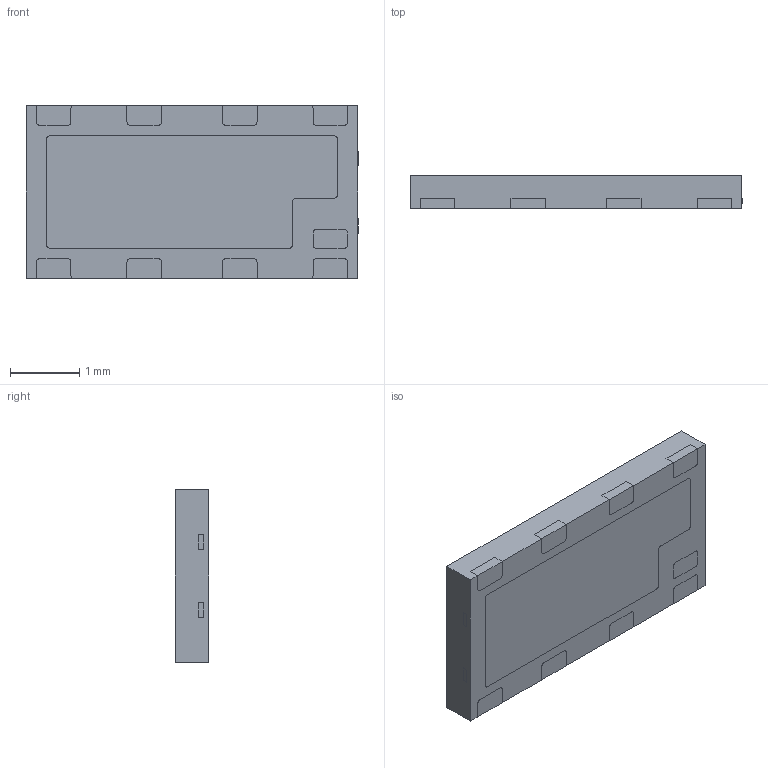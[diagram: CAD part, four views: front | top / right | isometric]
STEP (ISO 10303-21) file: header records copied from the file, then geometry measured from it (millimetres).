
FILE_DESCRIPTION(/* description */ (''),/* implementation_level */ '2;1');
FILE_NAME(/* name */ 'M:\Dokumente\MarCom STEP\MarCom-3D-VEMD8080_Updated.stp',/* time_stamp */ '2019-07-17T14:33:46+02:00',/* author */ ('akamay'),/* organization */ (''),/* preprocessor_version */ 'ST-DEVELOPER v17.2',/* originating_system */ 'Autodesk Inventor 2019',/* authorisation */ '');
FILE_SCHEMA (('AUTOMOTIVE_DESIGN { 1 0 10303 214 3 1 1 }'));
Length unit declared in the file: millimetre
Products named in the file (1): MarCom-3D-VEMD8080
Bounding box: 4.8 x 0.48 x 2.5 mm (x, y, z)
Volume: 5.8 mm3; surface area: 31 mm2
Topology: 1 solids, 1 shells, 150 faces, 423 edges, 282 vertices
Faces by surface type: plane 108, cylinder 42
Entity records: 4900 total; most frequent: CARTESIAN_POINT 856, ORIENTED_EDGE 846, DIRECTION 809, EDGE_CURVE 423, LINE 339, VECTOR 339, VERTEX_POINT 282, AXIS2_PLACEMENT_3D 235
